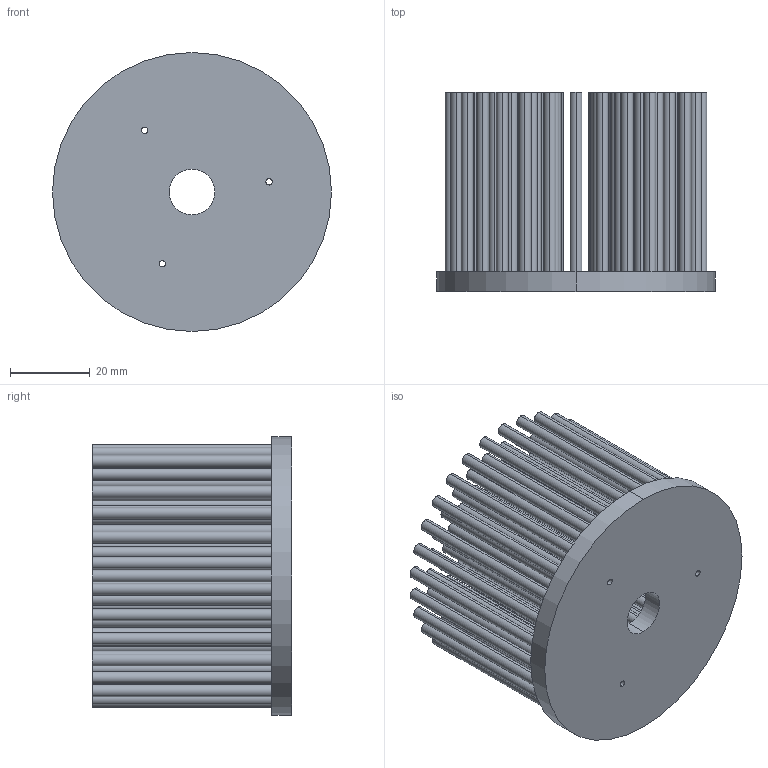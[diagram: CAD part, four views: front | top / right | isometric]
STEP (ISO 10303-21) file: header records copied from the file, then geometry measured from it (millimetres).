
FILE_DESCRIPTION (( 'STEP AP203' ), '1' );
FILE_NAME ('XSA-64-M2 (O70mm X 50mm).STEP', '2012-06-27T08:57:24', ( 'Your User Name' ), ( 'Your Company Name' ), 'SwSTEP 2.0', 'SolidWorks 2011', '' );
FILE_SCHEMA (( 'CONFIG_CONTROL_DESIGN' ));
Length unit declared in the file: millimetre
Products named in the file (1): XSA-64-M2 (O70mm X 50mm)
Bounding box: 70 x 50 x 70 mm (x, y, z)
Volume: 54318.4 mm3; surface area: 56333.6 mm2
Topology: 1 solids, 1 shells, 348 faces, 702 edges, 468 vertices
Faces by surface type: cylinder 234, plane 114
Entity records: 9427 total; most frequent: DIRECTION 1868, CARTESIAN_POINT 1519, ORIENTED_EDGE 1404, AXIS2_PLACEMENT_3D 817, EDGE_CURVE 702, VERTEX_POINT 468, EDGE_LOOP 468, CIRCLE 468
